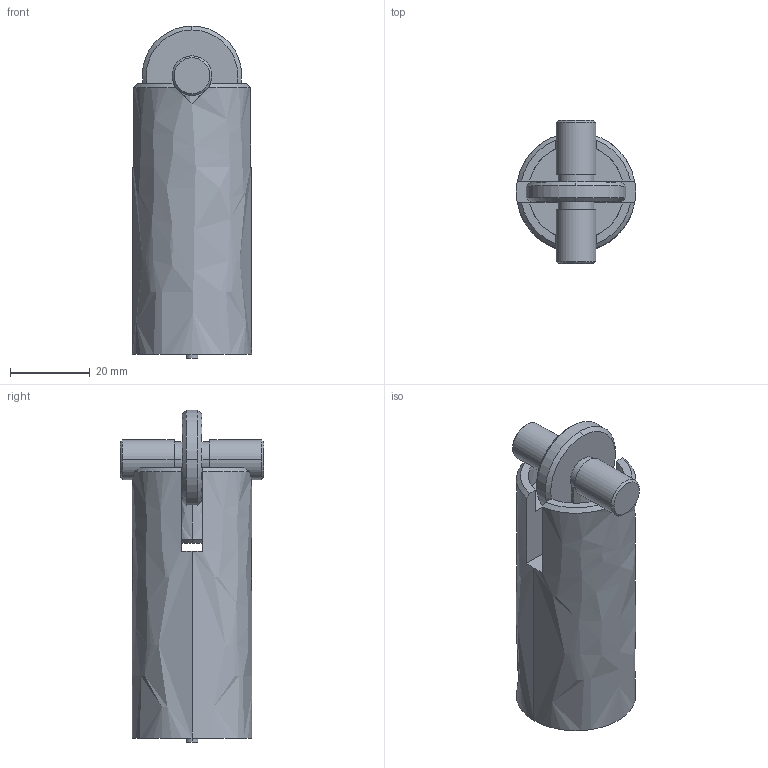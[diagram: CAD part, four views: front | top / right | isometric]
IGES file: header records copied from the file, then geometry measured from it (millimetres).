
Start section: Elysium IGES Interface
Global section: file name: 87HS:\5_測器センサ開発部\2課\2係\30_3D-CAD\00_HP用\キャルゲージセット\IGES形式\6902H用.igs; native system: Creo Elements/Direct Modeling 18.1C  24-Feb-2013; preprocessor: Creo Element/Direct IGES_3D V2.2; author: Unknown; organization: Unknown; date: 20181012.191949; units: millimetre
Bounding box: 30 x 36 x 83.5 mm (x, y, z)
Volume: 47738.9 mm3; surface area: 12144.9 mm2
Topology: 4 solids, 4 shells, 82 faces, 198 edges, 130 vertices
Faces by surface type: bspline 82
